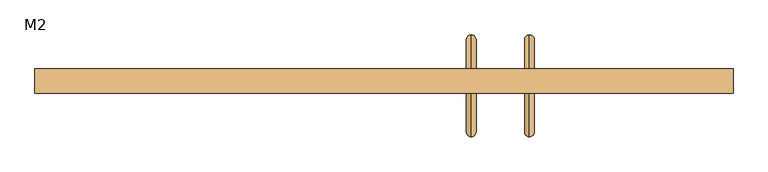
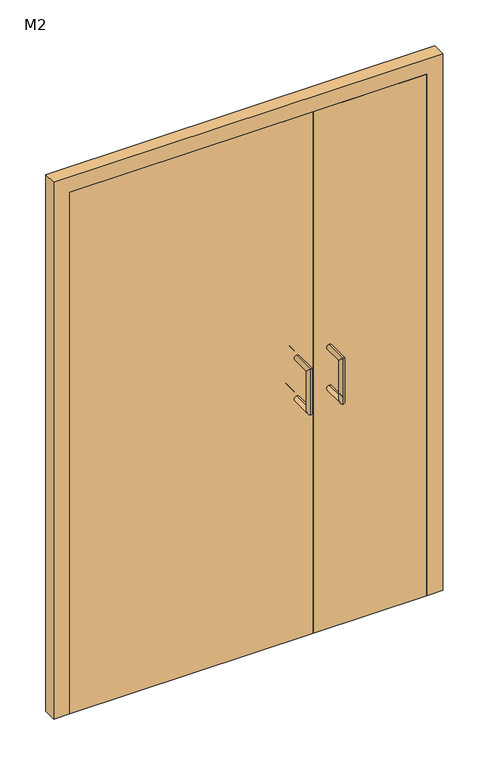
"""IFC4 building model written with IfcOpenShell, lengths in millimetres: door geometry, 子母门 : M2."""

from ifc_helpers import new_model, si_unit, frame, origin, origin_with_axes, place, context, project, spatial, polyline, circle_curve, ellipse_curve, outline, extrude, source, transform, mapped, element, save
from ifc_brep_helpers import plane_surface, cylinder_surface, advanced_brep


def m2_84174246(model_context):
    return source(origin(), model_context, "Body", "SolidModel", [
        extrude(outline(polyline([(660.0, 5.0), (660.0, -25.0), (240.0, -25.0), (240.0, 5.0), (660.0, 5.0)])), origin_with_axes(), (0.0, 0.0, 1.0), 2040.0),
        extrude(outline(polyline([(240.0, 5.0), (240.0, -25.0), (-660.0, -25.0), (-660.0, 5.0), (240.0, 5.0)])), origin_with_axes(), (0.0, 0.0, 1.0), 2040.0),
        extrude(outline(polyline([(2100.0, -720.0), (0.0, -720.0), (0.0, -660.0), (2040.0, -660.0), (2040.0, 660.0), (0.0, 660.0), (0.0, 720.0), (2100.0, 720.0), (2100.0, -720.0)])), frame((0.0, -25.0, 0.0), z_axis=(0.0, 1.0, 0.0), x_axis=(0.0, 0.0, 1.0)), (0.0, 0.0, 1.0), 50.0),
        advanced_brep(
        [(300.0, -25.0, 1090.0), (300.0, -25.0, 1110.0), (300.0, -115.0, 1110.0), (300.0, -95.0, 1090.0), (300.0, -115.0, 930.0), (300.0, -95.0, 950.0), (300.0, -25.0, 950.0), (300.0, -25.0, 930.0)],
        [
            (0, 1, circle_curve(frame((300.0, -25.0, 1100.0), z_axis=(0.0, 1.0, 0.0), x_axis=(0.0, 0.0, 1.0)), 10.0)),
            (1, 0, circle_curve(frame((300.0, -25.0, 1100.0), z_axis=(0.0, 1.0, 0.0), x_axis=(0.0, 0.0, 1.0)), 10.0)),
            (1, 2),
            (2, 3, ellipse_curve(frame((300.0, -105.0, 1100.0), z_axis=(0.0, 0.7071067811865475, 0.7071067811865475), x_axis=(0.0, 0.7071067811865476, -0.7071067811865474)), 14.1421356, 10.0)),
            (3, 0),
            (3, 2, ellipse_curve(frame((300.0, -105.0, 1100.0), z_axis=(0.0, 0.7071067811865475, 0.7071067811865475), x_axis=(0.0, 0.7071067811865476, -0.7071067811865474)), 14.1421356, 10.0)),
            (2, 4),
            (4, 5, ellipse_curve(frame((300.0, -105.0, 940.0), z_axis=(0.0, -0.7071067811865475, 0.7071067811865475), x_axis=(0.0, 0.7071067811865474, 0.7071067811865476)), 14.1421356, 10.0)),
            (5, 3),
            (5, 4, ellipse_curve(frame((300.0, -105.0, 940.0), z_axis=(0.0, -0.7071067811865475, 0.7071067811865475), x_axis=(0.0, 0.7071067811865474, 0.7071067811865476)), 14.1421356, 10.0)),
            (6, 7, circle_curve(frame((300.0, -25.0, 940.0), z_axis=(0.0, 1.0, 0.0), x_axis=(0.0, 0.0, -1.0)), 10.0)),
            (7, 6, circle_curve(frame((300.0, -25.0, 940.0), z_axis=(0.0, 1.0, 0.0), x_axis=(0.0, 0.0, -1.0)), 10.0)),
            (4, 7),
            (6, 5),
        ],
        [
            plane_surface(frame((0.0, -25.0, 1100.0), z_axis=(0.0, 1.0, 0.0), x_axis=(1.0, 0.0, 0.0))),
            cylinder_surface(frame((300.0, -25.0, 1100.0), z_axis=(0.0, 1.0, 0.0), x_axis=(0.0, 0.0, 1.0)), 10.0),
            cylinder_surface(frame((300.0, -105.0, 1100.0), z_axis=(0.0, 0.0, 1.0), x_axis=(0.0, -1.0, 0.0)), 10.0),
            plane_surface(frame((0.0, -25.0, 940.0), z_axis=(0.0, 1.0, 0.0), x_axis=(1.0, 0.0, 0.0))),
            cylinder_surface(frame((300.0, -105.0, 940.0), z_axis=(0.0, -1.0, 0.0), x_axis=(0.0, 0.0, -1.0)), 10.0),
        ],
        [
            (0, [[1, 2]]),
            (1, [[3, 4, 5, -2]]),
            (1, [[-5, 6, -3, -1]]),
            (2, [[7, 8, 9, -4]]),
            (2, [[-9, 10, -7, -6]]),
            (3, [[11, 12]]),
            (4, [[13, -11, 14, -8]]),
            (4, [[-14, -12, -13, -10]]),
        ],
    ),
        advanced_brep(
        [(180.0, -25.0, 1090.0), (180.0, -25.0, 1110.0), (180.0, -25.0, 950.0), (180.0, -25.0, 930.0), (180.0, -115.0, 1110.0), (180.0, -95.0, 1090.0), (180.0, -115.0, 930.0), (180.0, -95.0, 950.0)],
        [
            (0, 1, circle_curve(frame((180.0, -25.0, 1100.0), z_axis=(0.0, 1.0, 0.0), x_axis=(0.0, 0.0, 1.0)), 10.0)),
            (1, 0, circle_curve(frame((180.0, -25.0, 1100.0), z_axis=(0.0, 1.0, 0.0), x_axis=(0.0, 0.0, 1.0)), 10.0)),
            (2, 3, circle_curve(frame((180.0, -25.0, 940.0), z_axis=(0.0, 1.0, 0.0), x_axis=(0.0, 0.0, -1.0)), 10.0)),
            (3, 2, circle_curve(frame((180.0, -25.0, 940.0), z_axis=(0.0, 1.0, 0.0), x_axis=(0.0, 0.0, -1.0)), 10.0)),
            (1, 4),
            (4, 5, ellipse_curve(frame((180.0, -105.0, 1100.0), z_axis=(0.0, 0.7071067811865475, 0.7071067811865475), x_axis=(0.0, 0.7071067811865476, -0.7071067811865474)), 14.1421356, 10.0)),
            (5, 0),
            (5, 4, ellipse_curve(frame((180.0, -105.0, 1100.0), z_axis=(0.0, 0.7071067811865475, 0.7071067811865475), x_axis=(0.0, 0.7071067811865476, -0.7071067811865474)), 14.1421356, 10.0)),
            (4, 6),
            (6, 7, ellipse_curve(frame((180.0, -105.0, 940.0), z_axis=(0.0, -0.7071067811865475, 0.7071067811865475), x_axis=(0.0, 0.7071067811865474, 0.7071067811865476)), 14.1421356, 10.0)),
            (7, 5),
            (7, 6, ellipse_curve(frame((180.0, -105.0, 940.0), z_axis=(0.0, -0.7071067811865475, 0.7071067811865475), x_axis=(0.0, 0.7071067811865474, 0.7071067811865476)), 14.1421356, 10.0)),
            (6, 3),
            (2, 7),
        ],
        [
            plane_surface(frame((0.0, -25.0, 1100.0), z_axis=(0.0, 1.0, 0.0), x_axis=(1.0, 0.0, 0.0))),
            plane_surface(frame((0.0, -25.0, 940.0), z_axis=(0.0, 1.0, 0.0), x_axis=(1.0, 0.0, 0.0))),
            cylinder_surface(frame((180.0, -25.0, 1100.0), z_axis=(0.0, 1.0, 0.0), x_axis=(0.0, 0.0, 1.0)), 10.0),
            cylinder_surface(frame((180.0, -105.0, 1100.0), z_axis=(0.0, 0.0, 1.0), x_axis=(0.0, -1.0, 0.0)), 10.0),
            cylinder_surface(frame((180.0, -105.0, 940.0), z_axis=(0.0, -1.0, 0.0), x_axis=(0.0, 0.0, -1.0)), 10.0),
        ],
        [
            (0, [[1, 2]]),
            (1, [[3, 4]]),
            (2, [[5, 6, 7, -2]]),
            (2, [[-7, 8, -5, -1]]),
            (3, [[9, 10, 11, -6]]),
            (3, [[-11, 12, -9, -8]]),
            (4, [[13, -3, 14, -10]]),
            (4, [[-14, -4, -13, -12]]),
        ],
    ),
        advanced_brep(
        [(300.0, 5.0, 1110.0), (300.0, 5.0, 1090.0), (300.0, 75.0, 1090.0), (300.0, 95.0, 1110.0), (300.0, 75.0, 950.0), (300.0, 95.0, 930.0), (300.0, 5.0, 930.0), (300.0, 5.0, 950.0)],
        [
            (0, 1, circle_curve(frame((300.0, 5.0, 1100.0), z_axis=(0.0, -1.0, 0.0), x_axis=(0.0, 0.0, -1.0)), 10.0)),
            (1, 0, circle_curve(frame((300.0, 5.0, 1100.0), z_axis=(0.0, -1.0, 0.0), x_axis=(0.0, 0.0, -1.0)), 10.0)),
            (1, 2),
            (2, 3, ellipse_curve(frame((300.0, 85.0, 1100.0), z_axis=(0.0, -0.7071067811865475, 0.7071067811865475), x_axis=(0.0, -0.7071067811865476, -0.7071067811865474)), 14.1421356, 10.0)),
            (3, 0),
            (3, 2, ellipse_curve(frame((300.0, 85.0, 1100.0), z_axis=(0.0, -0.7071067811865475, 0.7071067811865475), x_axis=(0.0, -0.7071067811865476, -0.7071067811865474)), 14.1421356, 10.0)),
            (2, 4),
            (4, 5, ellipse_curve(frame((300.0, 85.0, 940.0), z_axis=(0.0, 0.7071067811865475, 0.7071067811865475), x_axis=(0.0, -0.7071067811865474, 0.7071067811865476)), 14.1421356, 10.0)),
            (5, 3),
            (5, 4, ellipse_curve(frame((300.0, 85.0, 940.0), z_axis=(0.0, 0.7071067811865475, 0.7071067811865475), x_axis=(0.0, -0.7071067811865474, 0.7071067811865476)), 14.1421356, 10.0)),
            (6, 7, circle_curve(frame((300.0, 5.0, 940.0), z_axis=(0.0, -1.0, 0.0), x_axis=(0.0, 0.0, 1.0)), 10.0)),
            (7, 6, circle_curve(frame((300.0, 5.0, 940.0), z_axis=(0.0, -1.0, 0.0), x_axis=(0.0, 0.0, 1.0)), 10.0)),
            (4, 7),
            (6, 5),
        ],
        [
            plane_surface(frame((0.0, 5.0, 1100.0), z_axis=(0.0, -1.0, 0.0), x_axis=(1.0, 0.0, 0.0))),
            cylinder_surface(frame((300.0, 5.0, 1100.0), z_axis=(0.0, -1.0, 0.0), x_axis=(0.0, 0.0, -1.0)), 10.0),
            cylinder_surface(frame((300.0, 85.0, 1100.0), z_axis=(0.0, 0.0, 1.0), x_axis=(0.0, -1.0, 0.0)), 10.0),
            plane_surface(frame((0.0, 5.0, 940.0), z_axis=(0.0, -1.0, 0.0), x_axis=(1.0, 0.0, 0.0))),
            cylinder_surface(frame((300.0, 85.0, 940.0), z_axis=(0.0, 1.0, 0.0), x_axis=(0.0, 0.0, 1.0)), 10.0),
        ],
        [
            (0, [[1, 2]]),
            (1, [[3, 4, 5, -2]]),
            (1, [[-5, 6, -3, -1]]),
            (2, [[7, 8, 9, -4]]),
            (2, [[-9, 10, -7, -6]]),
            (3, [[11, 12]]),
            (4, [[13, -11, 14, -8]]),
            (4, [[-14, -12, -13, -10]]),
        ],
    ),
        advanced_brep(
        [(180.0, 5.0, 1110.0), (180.0, 5.0, 1090.0), (180.0, 5.0, 930.0), (180.0, 5.0, 950.0), (180.0, 75.0, 1090.0), (180.0, 95.0, 1110.0), (180.0, 75.0, 950.0), (180.0, 95.0, 930.0)],
        [
            (0, 1, circle_curve(frame((180.0, 5.0, 1100.0), z_axis=(0.0, -1.0, 0.0), x_axis=(0.0, 0.0, -1.0)), 10.0)),
            (1, 0, circle_curve(frame((180.0, 5.0, 1100.0), z_axis=(0.0, -1.0, 0.0), x_axis=(0.0, 0.0, -1.0)), 10.0)),
            (2, 3, circle_curve(frame((180.0, 5.0, 940.0), z_axis=(0.0, -1.0, 0.0), x_axis=(0.0, 0.0, 1.0)), 10.0)),
            (3, 2, circle_curve(frame((180.0, 5.0, 940.0), z_axis=(0.0, -1.0, 0.0), x_axis=(0.0, 0.0, 1.0)), 10.0)),
            (1, 4),
            (4, 5, ellipse_curve(frame((180.0, 85.0, 1100.0), z_axis=(0.0, -0.7071067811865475, 0.7071067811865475), x_axis=(0.0, -0.7071067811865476, -0.7071067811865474)), 14.1421356, 10.0)),
            (5, 0),
            (5, 4, ellipse_curve(frame((180.0, 85.0, 1100.0), z_axis=(0.0, -0.7071067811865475, 0.7071067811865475), x_axis=(0.0, -0.7071067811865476, -0.7071067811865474)), 14.1421356, 10.0)),
            (4, 6),
            (6, 7, ellipse_curve(frame((180.0, 85.0, 940.0), z_axis=(0.0, 0.7071067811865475, 0.7071067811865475), x_axis=(0.0, -0.7071067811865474, 0.7071067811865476)), 14.1421356, 10.0)),
            (7, 5),
            (7, 6, ellipse_curve(frame((180.0, 85.0, 940.0), z_axis=(0.0, 0.7071067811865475, 0.7071067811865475), x_axis=(0.0, -0.7071067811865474, 0.7071067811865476)), 14.1421356, 10.0)),
            (6, 3),
            (2, 7),
        ],
        [
            plane_surface(frame((0.0, 5.0, 1100.0), z_axis=(0.0, -1.0, 0.0), x_axis=(1.0, 0.0, 0.0))),
            plane_surface(frame((0.0, 5.0, 940.0), z_axis=(0.0, -1.0, 0.0), x_axis=(1.0, 0.0, 0.0))),
            cylinder_surface(frame((180.0, 5.0, 1100.0), z_axis=(0.0, -1.0, 0.0), x_axis=(0.0, 0.0, -1.0)), 10.0),
            cylinder_surface(frame((180.0, 85.0, 1100.0), z_axis=(0.0, 0.0, 1.0), x_axis=(0.0, -1.0, 0.0)), 10.0),
            cylinder_surface(frame((180.0, 85.0, 940.0), z_axis=(0.0, 1.0, 0.0), x_axis=(0.0, 0.0, 1.0)), 10.0),
        ],
        [
            (0, [[1, 2]]),
            (1, [[3, 4]]),
            (2, [[5, 6, 7, -2]]),
            (2, [[-7, 8, -5, -1]]),
            (3, [[9, 10, 11, -6]]),
            (3, [[-11, 12, -9, -8]]),
            (4, [[13, -3, 14, -10]]),
            (4, [[-14, -4, -13, -12]]),
        ],
    ),
    ])


if __name__ == "__main__":
    model = new_model("IFC4")
    model_context = context("Model", 3, world=origin())
    ifc_project = project(units=[si_unit("LENGTHUNIT", "METRE", prefix="MILLI")], contexts=[model_context])
    site = spatial("IfcSite", under=ifc_project)
    building = spatial("IfcBuilding", under=site)
    placement = place(None, origin())
    m2_shape = m2_84174246(model_context)
    element("IfcDoor", 1, ObjectType="子母门 : M2", at=placement, inside=building, context=model_context, shape_type="MappedRepresentation", body=[
        mapped(m2_shape, transform((0.0, 0.0, 0.0), x_axis=(1.0, 0.0, 0.0), y_axis=(0.0, 1.0, 0.0), z_axis=(0.0, 0.0, 1.0))),
    ])
    save(model, "model.ifc")
